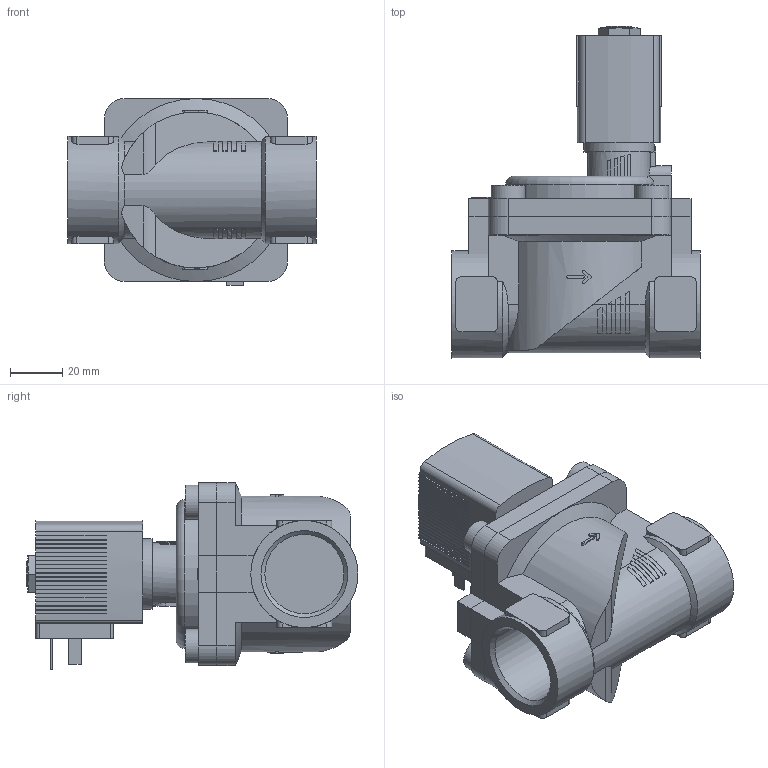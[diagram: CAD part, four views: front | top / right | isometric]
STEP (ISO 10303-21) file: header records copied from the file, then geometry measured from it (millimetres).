
FILE_DESCRIPTION(/* description */ ('STEP AP214'),/* implementation_level */ '2;1');
FILE_NAME(/* name */ '6281-242740-2_2-Way_Solenoid_Valve__Servo-assisted__General_Purpose',/* time_stamp */ '2024-06-17T12:05:03+02:00',/* author */ ('License CC BY-ND 4.0'),/* organization */ ('CADENAS'),/* preprocessor_version */ 'ST-DEVELOPER v19.3',/* originating_system */ 'PARTsolutions',/* authorisation */ ' ');
FILE_SCHEMA (('AUTOMOTIVE_DESIGN {1 0 10303 214 3 1 1}'));
Length unit declared in the file: millimetre
Products named in the file (4): 6281-242740-2/2-Way Solenoid Valve, Servo-assisted, General Purpose; 5281ev250MS2/2-Wege-Magnetventil mit Servomembran-Deckel   ; 6213-25G1MS-Gehaeuse-; AC10ex-5OO-Plan-Coil
Assembly tree (3 placements, depth 2):
  6281-242740-2/2-Way Solenoid Valve, Servo-assisted, General Purpose
    5281ev250MS2/2-Wege-Magnetventil mit Servomembran-Deckel   
    6213-25G1MS-Gehaeuse-
    AC10ex-5OO-Plan-Coil
Bounding box: 95 x 127 x 71.5 mm (x, y, z)
Volume: 289398.6 mm3; surface area: 55609.8 mm2
Topology: 3 solids, 3 shells, 535 faces, 1506 edges, 998 vertices
Faces by surface type: plane 433, cylinder 88, cone 13, torus 1
Full cylindrical faces by diameter (mm): 2.013 x1, 9.74 x1, 13 x4, 27 x1, 30.291 x2, 41 x2
Entity records: 19785 total; most frequent: CARTESIAN_POINT 3267, ORIENTED_EDGE 2964, DIRECTION 2798, EDGE_CURVE 1482, LINE 1110, VECTOR 1110, VERTEX_POINT 990, AXIS2_PLACEMENT_3D 844
